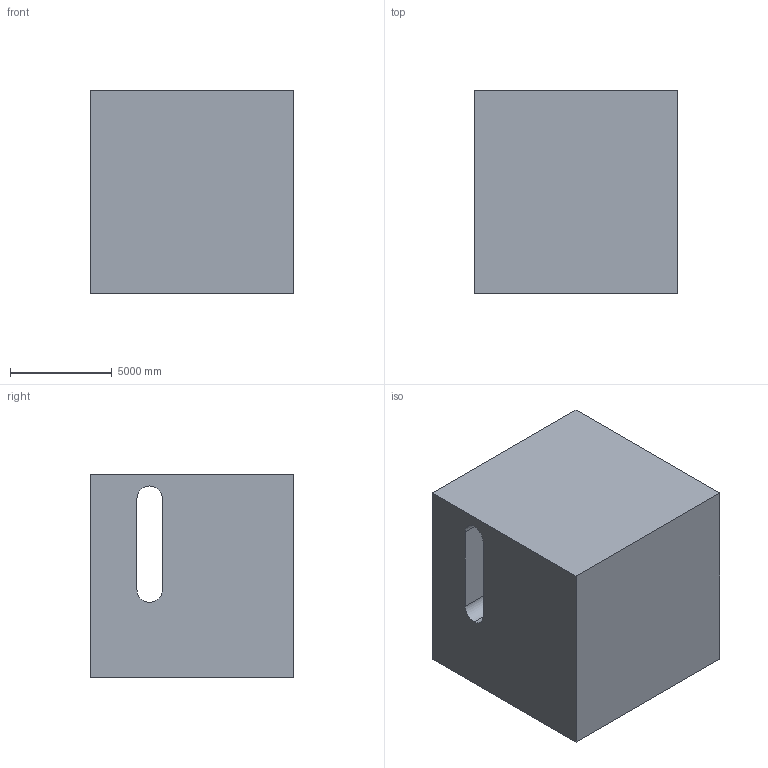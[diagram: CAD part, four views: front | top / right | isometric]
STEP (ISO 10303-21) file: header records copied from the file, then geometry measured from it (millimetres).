
FILE_DESCRIPTION (( 'STEP AP203' ), '1' );
FILE_NAME ('10.STEP', '2022-08-31T11:09:04', ( 'user' ), ( '' ), 'SwSTEP 2.0', 'SolidWorks 2021', '' );
FILE_SCHEMA (( 'CONFIG_CONTROL_DESIGN' ));
Length unit declared in the file: centimetre
Products named in the file (1): 10
Bounding box: 10000 x 10000 x 10000 mm (x, y, z)
Volume: 909953801994.6 mm3; surface area: 728555742.7 mm2
Topology: 1 solids, 1 shells, 15 faces, 42 edges, 28 vertices
Faces by surface type: plane 12, cylinder 3
Entity records: 567 total; most frequent: CARTESIAN_POINT 92, ORIENTED_EDGE 84, DIRECTION 78, EDGE_CURVE 42, VECTOR 34, LINE 34, VERTEX_POINT 28, AXIS2_PLACEMENT_3D 22
